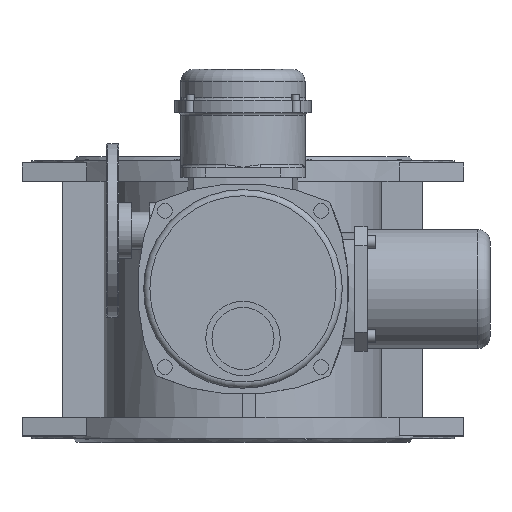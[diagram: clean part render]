
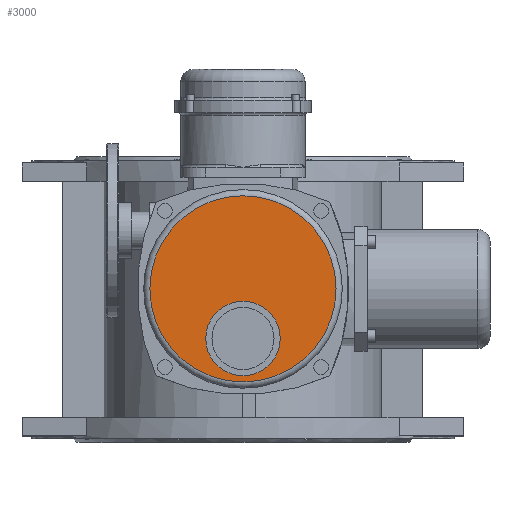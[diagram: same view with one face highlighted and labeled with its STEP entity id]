
A CAD part, top view. The second image highlights one B-rep face of the part: STEP entity #3000.
In plain terms, the highlighted planar face has unit normal (0, 0, 1).
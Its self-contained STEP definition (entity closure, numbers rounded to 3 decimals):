
#3000=ADVANCED_FACE('',(#6281,#6283),#6285,.T.);
#6281=FACE_BOUND('',#6282,.T.);
#6282=EDGE_LOOP('',(#8010));
#6283=FACE_BOUND('',#6284,.T.);
#6284=EDGE_LOOP('',(#8011));
#6285=PLANE('',#6286);
#6286=AXIS2_PLACEMENT_3D('',#6287,#6288,#6289);
#6287=CARTESIAN_POINT('',(0.,8.,400.));
#6288=DIRECTION('',(0.,0.,1.));
#6289=DIRECTION('',(-1.,0.,0.));
#8010=ORIENTED_EDGE('',*,*,#8798,.T.);
#8011=ORIENTED_EDGE('',*,*,#8841,.F.);
#8798=EDGE_CURVE('',#10138,#10138,#10139,.T.);
#8841=EDGE_CURVE('',#10206,#10206,#10207,.T.);
#10138=VERTEX_POINT('',#16249);
#10139=CIRCLE('',#16250,75.);
#10206=VERTEX_POINT('',#16442);
#10207=CIRCLE('',#16443,30.);
#16249=CARTESIAN_POINT('',(-75.,8.,400.));
#16250=AXIS2_PLACEMENT_3D('',#16251,#16252,#16253);
#16251=CARTESIAN_POINT('',(0.,8.,400.));
#16252=DIRECTION('',(0.,0.,1.));
#16253=DIRECTION('',(-1.,0.,0.));
#16442=CARTESIAN_POINT('',(-30.,-32.,400.));
#16443=AXIS2_PLACEMENT_3D('',#16444,#16445,#16446);
#16444=CARTESIAN_POINT('',(0.,-32.,400.));
#16445=DIRECTION('',(0.,0.,1.));
#16446=DIRECTION('',(-1.,0.,0.));
